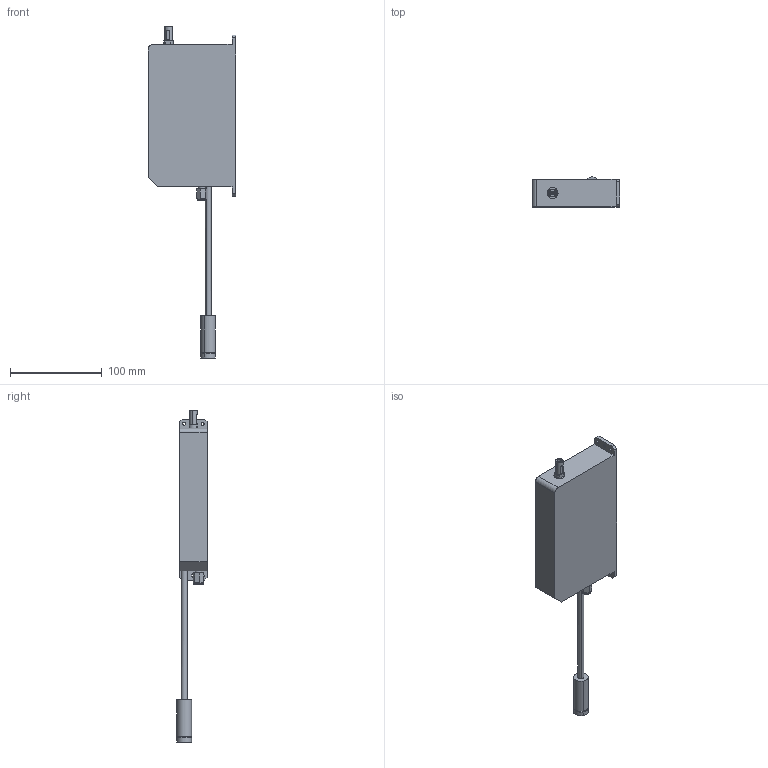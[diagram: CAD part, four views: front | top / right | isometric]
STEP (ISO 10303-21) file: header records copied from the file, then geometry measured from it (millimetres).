
FILE_DESCRIPTION (( 'STEP AP214' ), '1' );
FILE_NAME ('Z-Mod-LRA-30-50-M1£¨Íâ·¢£©.STEP', '2024-12-09T08:28:11', ( '' ), ( '' ), 'SwSTEP 2.0', 'SolidWorks 2022', '' );
FILE_SCHEMA (( 'AUTOMOTIVE_DESIGN' ));
Length unit declared in the file: millimetre
Products named in the file (3): Z-Mod-LRA-30-50-M1（外发壳体）; Z-Mod-LRA-30-50-M1（外发）; Z-Mod-LRA-30-50-M1（连杆）
Assembly tree (2 placements, depth 2):
  Z-Mod-LRA-30-50-M1（外发）
    Z-Mod-LRA-30-50-M1（外发壳体）
    Z-Mod-LRA-30-50-M1（连杆）
Bounding box: 95 x 32.98 x 361 mm (x, y, z)
Volume: 457836.3 mm3; surface area: 56182 mm2
Topology: 3 solids, 3 shells, 126 faces, 314 edges, 205 vertices
Faces by surface type: plane 64, cylinder 51, cone 11
Entity records: 5278 total; most frequent: CARTESIAN_POINT 746, DIRECTION 678, ORIENTED_EDGE 628, EDGE_CURVE 314, AXIS2_PLACEMENT_3D 249, VERTEX_POINT 205, VECTOR 180, LINE 180
